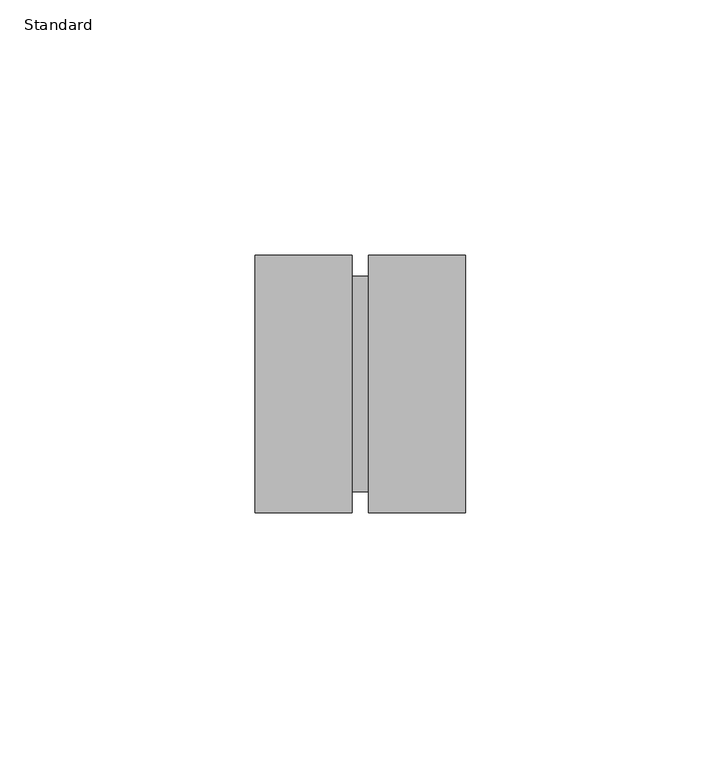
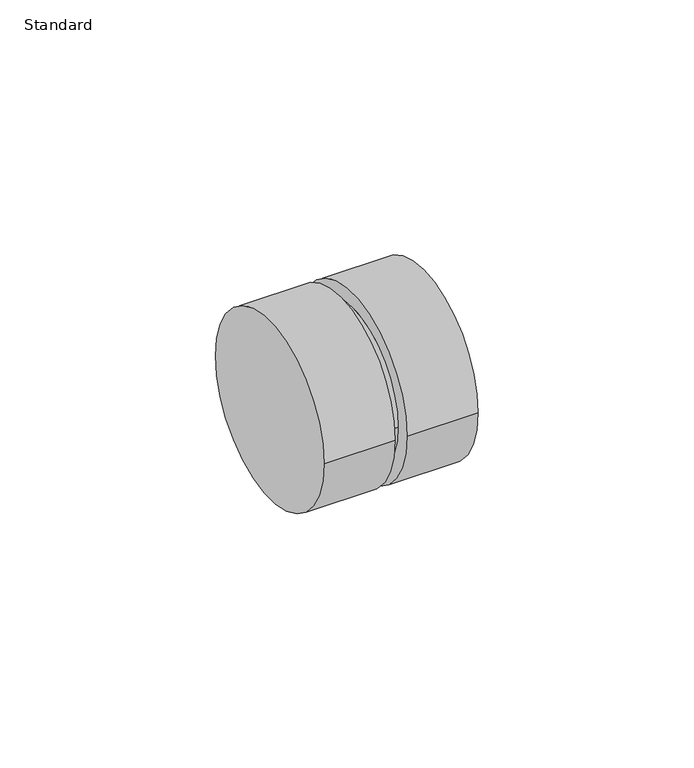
"""IFC4 building model written with IfcOpenShell, lengths in millimetres: pipe fitting geometry, Cople_Lubrizol_CPVC_FlowGuard_MX : Standard."""

import ifcopenshell
import ifcopenshell.guid

model = None  # the IFC model being written
_history = None  # IfcOwnerHistory: only IFC2X3 demands one
_inside = {}  # id of a spatial element -> (the spatial element, [elements in it])
_under = {}  # id of a project, library or spatial element -> (it, [spatial elements below it])
_declared = {}  # id of a project -> (the project, [libraries it declares])
_typed = {}  # id of a type object -> (the type object, [elements of that type])
_made_of = {}  # id of a material, layer set ... -> (it, [elements and type objects made of it])


def new_model(schema):
    """Start an empty IFC model of exactly this schema.

    Asked for "IFC4X3", IfcOpenShell would pick the latest addendum, in which some entities
    have other attributes; the version numbers below select the first issue.
    IFC2X3 requires an IfcOwnerHistory on every rooted entity: one is made here for all.
    """
    global model, _history
    if schema == "IFC4X3":
        model = ifcopenshell.file(schema_version=(4, 3, 0, 0))
    else:
        model = ifcopenshell.file(schema=schema)
    _inside.clear()
    _under.clear()
    _declared.clear()
    _typed.clear()
    _made_of.clear()
    _history = None
    if model.schema == "IFC2X3":
        org = make("IfcOrganization", Name="unknown")
        user = make(
            "IfcPersonAndOrganization",
            ThePerson=make("IfcPerson", FamilyName="unknown"),
            TheOrganization=org,
        )
        app = make(
            "IfcApplication",
            ApplicationDeveloper=org,
            Version="unknown",
            ApplicationFullName="unknown",
            ApplicationIdentifier="unknown",
        )
        _history = make(
            "IfcOwnerHistory",
            OwningUser=user,
            OwningApplication=app,
            ChangeAction="ADDED",
            CreationDate=0,
        )
    return model


def make(cls, **values):
    """One entity of the class cls with the attributes given. An attribute that is None is left unset."""
    return model.create_entity(
        cls, **{name: value for name, value in values.items() if value is not None}
    )


def rooted(cls, **values):
    """An entity with a GlobalId (a new one), such as an element, a storey or a relation."""
    return make(cls, GlobalId=ifcopenshell.guid.new(), OwnerHistory=_history, **values)


def si_unit(unit_type, name, prefix=None):
    """IfcSIUnit, for example si_unit("LENGTHUNIT", "METRE", prefix="MILLI")."""
    return make("IfcSIUnit", UnitType=unit_type, Prefix=prefix, Name=name)


def assignment(units):
    """IfcUnitAssignment: the units of a project."""
    return None if units is None else make("IfcUnitAssignment", Units=units)


def point(xyz):
    """IfcCartesianPoint."""
    return None if xyz is None else make("IfcCartesianPoint", Coordinates=xyz)


def direction(xyz):
    """IfcDirection."""
    return None if xyz is None else make("IfcDirection", DirectionRatios=xyz)


def frame(location, z_axis=None, x_axis=None):
    """IfcAxis2Placement3D, a coordinate frame: its origin and axes. An axis left out is left unset."""
    return make(
        "IfcAxis2Placement3D",
        Location=point(location),
        Axis=direction(z_axis),
        RefDirection=direction(x_axis),
    )


def origin():
    """The frame at (0, 0, 0) with its axes left unset."""
    return frame((0.0, 0.0, 0.0))


def place(relative_to, where):
    """IfcLocalPlacement: puts the frame where relative to a parent placement (None: the world)."""
    return make(
        "IfcLocalPlacement", PlacementRelTo=relative_to, RelativePlacement=where
    )


def context(
    kind, dimensions, precision=None, world=None, true_north=None, identifier=None
):
    """IfcGeometricRepresentationContext, for example the 3D "Model" context."""
    return make(
        "IfcGeometricRepresentationContext",
        ContextIdentifier=identifier,
        ContextType=kind,
        CoordinateSpaceDimension=dimensions,
        Precision=precision,
        WorldCoordinateSystem=world,
        TrueNorth=true_north,
    )


def project(units=None, contexts=None):
    """IfcProject with its units and contexts."""
    return rooted(
        "IfcProject",
        Name="project",
        RepresentationContexts=contexts,
        UnitsInContext=assignment(units),
    )


def spatial(cls, under=None, at=None, **own):
    """A site, building, storey or space (cls), placed at a placement, below another one or the project."""
    s = rooted(cls, ObjectPlacement=at, **own)
    if under is not None:
        _under.setdefault(under.id(), (under, []))[1].append(s)
    return s


def circle_curve(where, radius):
    """IfcCircle in the frame where."""
    return make("IfcCircle", Position=where, Radius=radius)


def shape(context_of_items, identifier, shape_type, items):
    """IfcShapeRepresentation: the items that make up one representation, for example the "Body"."""
    return make(
        "IfcShapeRepresentation",
        ContextOfItems=context_of_items,
        RepresentationIdentifier=identifier,
        RepresentationType=shape_type,
        Items=items,
    )


def source(mapping_origin, context_of_items, identifier, shape_type, items):
    """IfcRepresentationMap: a shape defined once, which mapped items show again and again."""
    return make(
        "IfcRepresentationMap",
        MappingOrigin=mapping_origin,
        MappedRepresentation=shape(context_of_items, identifier, shape_type, items),
    )


def transform(
    local_origin,
    x_axis=None,
    y_axis=None,
    z_axis=None,
    scale=None,
    scale2=None,
    scale3=None,
    uniform=True,
):
    """IfcCartesianTransformationOperator3D, or its non-uniform kind. x_axis, y_axis, z_axis: its Axis1, 2, 3."""
    if uniform:
        return make(
            "IfcCartesianTransformationOperator3D",
            Axis1=direction(x_axis),
            Axis2=direction(y_axis),
            LocalOrigin=point(local_origin),
            Scale=scale,
            Axis3=direction(z_axis),
        )
    return make(
        "IfcCartesianTransformationOperator3DnonUniform",
        Axis1=direction(x_axis),
        Axis2=direction(y_axis),
        LocalOrigin=point(local_origin),
        Scale=scale,
        Axis3=direction(z_axis),
        Scale2=scale2,
        Scale3=scale3,
    )


def mapped(mapping_source, mapping_target):
    """IfcMappedItem: shows the shape of a source again, moved by a transform."""
    return make(
        "IfcMappedItem", MappingSource=mapping_source, MappingTarget=mapping_target
    )


def made_of(thing, what):
    """Note that an element or type object is made of a material, layer set ...; save() writes the relation."""
    if what is not None:
        _made_of.setdefault(what.id(), (what, []))[1].append(thing)
    return thing


def element(
    cls,
    number,
    at=None,
    inside=None,
    cuts=None,
    type_object=None,
    material=None,
    context=None,
    identifier="Body",
    shape_type=None,
    held_by="IfcProductDefinitionShape",
    body=None,
    shapes=None,
    **own,
):
    """One element of the class cls, such as IfcWall. Its Tag is "e" and its number.

    at: its placement. inside: the storey or other place that contains it. cuts: it is an
    opening in that element (IfcRelVoidsElement). A single representation is given by context,
    identifier, shape_type and body (its items); several are given by shapes. held_by: the class
    of the entity that holds the representations. save() writes the other relations.
    """
    e = rooted(cls, Tag="e%d" % number, ObjectPlacement=at, **own)
    if body is not None:
        shapes = [shape(context, identifier, shape_type, body)]
    if shapes is not None:
        e.Representation = make(held_by, Representations=shapes)
    if inside is not None:
        _inside.setdefault(inside.id(), (inside, []))[1].append(e)
    if cuts is not None:
        rooted(
            "IfcRelVoidsElement", RelatingBuildingElement=cuts, RelatedOpeningElement=e
        )
    if type_object is not None:
        _typed.setdefault(type_object.id(), (type_object, []))[1].append(e)
    return made_of(e, material)


def aggregate(whole, parts):
    """IfcRelAggregates: a whole, such as a stair, and the parts it consists of."""
    return rooted("IfcRelAggregates", RelatingObject=whole, RelatedObjects=parts)


def save(model, path):
    """Write the relations noted so far, then the file.

    IfcRelAggregates (storeys below a building ...), IfcRelContainedInSpatialStructure (elements
    in a storey), IfcRelDefinesByType, IfcRelAssociatesMaterial and IfcRelDeclares: one each for
    every whole, place, type object, material and project.
    """
    for whole, parts in _under.values():
        aggregate(whole, parts)
    for where, things in _inside.values():
        rooted(
            "IfcRelContainedInSpatialStructure",
            RelatedElements=things,
            RelatingStructure=where,
        )
    for kind, things in _typed.values():
        rooted("IfcRelDefinesByType", RelatedObjects=things, RelatingType=kind)
    for what, things in _made_of.values():
        rooted("IfcRelAssociatesMaterial", RelatedObjects=things, RelatingMaterial=what)
    for by, libraries in _declared.values():
        rooted("IfcRelDeclares", RelatingContext=by, RelatedDefinitions=libraries)
    model.write(path)


def plane_surface(at):
    """IfcPlane: the flat surface through the origin of the frame at, square to its z axis."""
    return make("IfcPlane", Position=at)


def cylinder_surface(at, radius):
    """IfcCylindricalSurface: all points at the distance radius from the z axis of the frame at."""
    return make("IfcCylindricalSurface", Position=at, Radius=radius)


def advanced_brep(points, edges, surfaces, faces):
    """IfcAdvancedBrep: a solid bounded by faces that lie on surfaces and meet in shared edges.

    An edge is (start, end): straight between two places in points (the first is 0);
    or (start, end, curve); or (start, end, curve, False) where it runs against its curve.
    A face is (place in surfaces, loops), or (place, loops, False) where it looks against
    its surface's normal. A loop lists edges by number (the first is 1), with a minus sign
    where the edge is run from its end to its start. The first loop is the outer one.
    """
    corners = [point(p) for p in points]
    vertices = [make("IfcVertexPoint", VertexGeometry=c) for c in corners]
    made = []
    for start, end, *more in edges:
        made.append(
            make(
                "IfcEdgeCurve",
                EdgeStart=vertices[start],
                EdgeEnd=vertices[end],
                EdgeGeometry=more[0] if more else make("IfcPolyline", Points=[corners[start], corners[end]]),
                SameSense=more[1] if len(more) > 1 else True,
            )
        )
    hull = []
    for where, loops, *sense in faces:
        bounds = []
        for j, loop in enumerate(loops):
            ring = [make("IfcOrientedEdge", EdgeElement=made[abs(k) - 1], Orientation=k > 0) for k in loop]
            bounds.append(
                make(
                    "IfcFaceOuterBound" if j == 0 else "IfcFaceBound",
                    Bound=make("IfcEdgeLoop", EdgeList=ring),
                    Orientation=True,
                )
            )
        hull.append(make("IfcAdvancedFace", Bounds=bounds, FaceSurface=surfaces[where], SameSense=sense[0] if sense else True))
    return make("IfcAdvancedBrep", Outer=make("IfcClosedShell", CfsFaces=hull))


def standard_f4eb1e72(model_context):
    return source(origin(), model_context, "Body", "AdvancedBrep", [
        advanced_brep(
        [(-20.6375, -25.2349, 0.0), (-20.6375, 25.2349, 0.0), (-1.5875, -25.2349, 0.0), (-1.5875, 25.2349, 0.0), (-1.5875, -21.082, 0.0), (-1.5875, 21.082, 0.0), (1.5875, -21.082, 0.0), (1.5875, 21.082, 0.0), (1.5875, -25.2349, 0.0), (1.5875, 25.2349, 0.0), (20.6375, -25.2349, 0.0), (20.6375, 25.2349, 0.0)],
        [
            (0, 1, circle_curve(frame((-20.6375, 0.0, 0.0), z_axis=(-1.0, 0.0, 0.0), x_axis=(0.0, 1.0, 0.0)), 25.2349)),
            (1, 0, circle_curve(frame((-20.6375, 0.0, 0.0), z_axis=(-1.0, 0.0, 0.0), x_axis=(0.0, 1.0, 0.0)), 25.2349)),
            (2, 3, circle_curve(frame((-1.5875, 0.0, 0.0), z_axis=(1.0, 0.0, 0.0), x_axis=(0.0, 1.0, 0.0)), 25.2349)),
            (3, 2, circle_curve(frame((-1.5875, 0.0, 0.0), z_axis=(1.0, 0.0, 0.0), x_axis=(0.0, 1.0, 0.0)), 25.2349)),
            (4, 5, circle_curve(frame((-1.5875, 0.0, 0.0), z_axis=(-1.0, 0.0, 0.0), x_axis=(0.0, 1.0, 0.0)), 21.082)),
            (5, 4, circle_curve(frame((-1.5875, 0.0, 0.0), z_axis=(-1.0, 0.0, 0.0), x_axis=(0.0, 1.0, 0.0)), 21.082)),
            (0, 2),
            (3, 1),
            (4, 6),
            (6, 7, circle_curve(frame((1.5875, 0.0, 0.0), z_axis=(-1.0, 0.0, 0.0), x_axis=(0.0, 1.0, 0.0)), 21.082)),
            (7, 5),
            (7, 6, circle_curve(frame((1.5875, 0.0, 0.0), z_axis=(-1.0, 0.0, 0.0), x_axis=(0.0, 1.0, 0.0)), 21.082)),
            (8, 9, circle_curve(frame((1.5875, 0.0, 0.0), z_axis=(-1.0, 0.0, 0.0), x_axis=(0.0, 1.0, 0.0)), 25.2349)),
            (9, 8, circle_curve(frame((1.5875, 0.0, 0.0), z_axis=(-1.0, 0.0, 0.0), x_axis=(0.0, 1.0, 0.0)), 25.2349)),
            (10, 11, circle_curve(frame((20.6375, 0.0, 0.0), z_axis=(1.0, 0.0, 0.0), x_axis=(0.0, 1.0, 0.0)), 25.2349)),
            (11, 10, circle_curve(frame((20.6375, 0.0, 0.0), z_axis=(1.0, 0.0, 0.0), x_axis=(0.0, 1.0, 0.0)), 25.2349)),
            (8, 10),
            (11, 9),
        ],
        [
            plane_surface(frame((-20.6375, 0.0, 0.0), z_axis=(-1.0, 0.0, 0.0), x_axis=(0.0, 0.0, 1.0))),
            plane_surface(frame((-1.5875, 0.0, 0.0), z_axis=(1.0, 0.0, 0.0), x_axis=(0.0, 0.0, 1.0))),
            cylinder_surface(frame((-20.6375, 0.0, 0.0), z_axis=(-1.0, 0.0, 0.0), x_axis=(0.0, 1.0, 0.0)), 25.2349),
            cylinder_surface(frame((-1.5875, 0.0, 0.0), z_axis=(-1.0, 0.0, 0.0), x_axis=(0.0, 1.0, 0.0)), 21.082),
            plane_surface(frame((1.5875, 0.0, 0.0), z_axis=(-1.0, 0.0, 0.0), x_axis=(0.0, 0.0, 1.0))),
            plane_surface(frame((20.6375, 0.0, 0.0), z_axis=(1.0, 0.0, 0.0), x_axis=(0.0, 0.0, 1.0))),
            cylinder_surface(frame((1.5875, 0.0, 0.0), z_axis=(-1.0, 0.0, 0.0), x_axis=(0.0, 1.0, 0.0)), 25.2349),
        ],
        [
            (0, [[1, 2]]),
            (1, [[3, 4], [5, 6]]),
            (2, [[-1, 7, -4, 8]]),
            (2, [[-2, -8, -3, -7]]),
            (3, [[9, 10, 11, -5]]),
            (3, [[-9, -6, -11, 12]]),
            (4, [[13, 14], [-10, -12]]),
            (5, [[15, 16]]),
            (6, [[-13, 17, -16, 18]]),
            (6, [[-14, -18, -15, -17]]),
        ],
    ),
    ])


if __name__ == "__main__":
    model = new_model("IFC4")
    model_context = context("Model", 3, world=origin())
    ifc_project = project(units=[si_unit("LENGTHUNIT", "METRE", prefix="MILLI")], contexts=[model_context])
    site = spatial("IfcSite", under=ifc_project)
    building = spatial("IfcBuilding", under=site)
    placement = place(None, origin())
    standard_shape = standard_f4eb1e72(model_context)
    element("IfcPipeFitting", 1, ObjectType="Cople_Lubrizol_CPVC_FlowGuard_MX : Standard", at=placement, inside=building, context=model_context, shape_type="MappedRepresentation", body=[
        mapped(standard_shape, transform((0.0, 0.0, 0.0), x_axis=(1.0, 0.0, 0.0), y_axis=(0.0, 1.0, 0.0), z_axis=(0.0, 0.0, 1.0))),
    ])
    save(model, "model.ifc")
